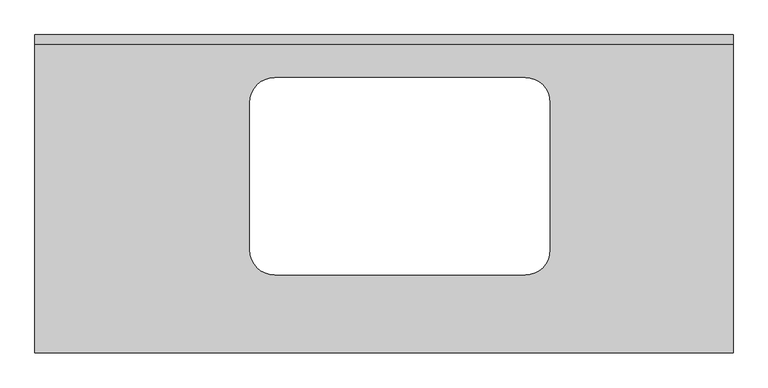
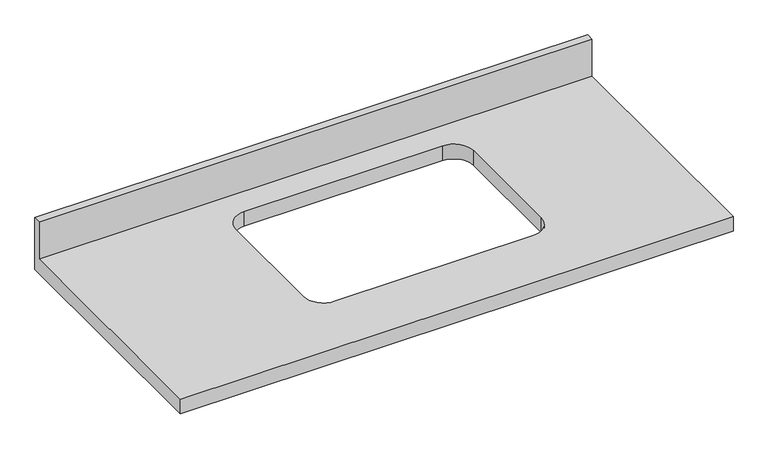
"""IFC4 building model written with IfcOpenShell, lengths in millimetres: furniture geometry, 洗面カウンタ 正方形 シンク開口 - 3D : 奥行き 650 mm."""

import ifcopenshell
import ifcopenshell.guid

model = None  # the IFC model being written
_history = None  # IfcOwnerHistory: only IFC2X3 demands one
_inside = {}  # id of a spatial element -> (the spatial element, [elements in it])
_under = {}  # id of a project, library or spatial element -> (it, [spatial elements below it])
_declared = {}  # id of a project -> (the project, [libraries it declares])
_typed = {}  # id of a type object -> (the type object, [elements of that type])
_made_of = {}  # id of a material, layer set ... -> (it, [elements and type objects made of it])


def new_model(schema):
    """Start an empty IFC model of exactly this schema.

    Asked for "IFC4X3", IfcOpenShell would pick the latest addendum, in which some entities
    have other attributes; the version numbers below select the first issue.
    IFC2X3 requires an IfcOwnerHistory on every rooted entity: one is made here for all.
    """
    global model, _history
    if schema == "IFC4X3":
        model = ifcopenshell.file(schema_version=(4, 3, 0, 0))
    else:
        model = ifcopenshell.file(schema=schema)
    _inside.clear()
    _under.clear()
    _declared.clear()
    _typed.clear()
    _made_of.clear()
    _history = None
    if model.schema == "IFC2X3":
        org = make("IfcOrganization", Name="unknown")
        user = make(
            "IfcPersonAndOrganization",
            ThePerson=make("IfcPerson", FamilyName="unknown"),
            TheOrganization=org,
        )
        app = make(
            "IfcApplication",
            ApplicationDeveloper=org,
            Version="unknown",
            ApplicationFullName="unknown",
            ApplicationIdentifier="unknown",
        )
        _history = make(
            "IfcOwnerHistory",
            OwningUser=user,
            OwningApplication=app,
            ChangeAction="ADDED",
            CreationDate=0,
        )
    return model


def make(cls, **values):
    """One entity of the class cls with the attributes given. An attribute that is None is left unset."""
    return model.create_entity(
        cls, **{name: value for name, value in values.items() if value is not None}
    )


def rooted(cls, **values):
    """An entity with a GlobalId (a new one), such as an element, a storey or a relation."""
    return make(cls, GlobalId=ifcopenshell.guid.new(), OwnerHistory=_history, **values)


def si_unit(unit_type, name, prefix=None):
    """IfcSIUnit, for example si_unit("LENGTHUNIT", "METRE", prefix="MILLI")."""
    return make("IfcSIUnit", UnitType=unit_type, Prefix=prefix, Name=name)


def assignment(units):
    """IfcUnitAssignment: the units of a project."""
    return None if units is None else make("IfcUnitAssignment", Units=units)


def point(xyz):
    """IfcCartesianPoint."""
    return None if xyz is None else make("IfcCartesianPoint", Coordinates=xyz)


def direction(xyz):
    """IfcDirection."""
    return None if xyz is None else make("IfcDirection", DirectionRatios=xyz)


def frame(location, z_axis=None, x_axis=None):
    """IfcAxis2Placement3D, a coordinate frame: its origin and axes. An axis left out is left unset."""
    return make(
        "IfcAxis2Placement3D",
        Location=point(location),
        Axis=direction(z_axis),
        RefDirection=direction(x_axis),
    )


def origin():
    """The frame at (0, 0, 0) with its axes left unset."""
    return frame((0.0, 0.0, 0.0))


def place(relative_to, where):
    """IfcLocalPlacement: puts the frame where relative to a parent placement (None: the world)."""
    return make(
        "IfcLocalPlacement", PlacementRelTo=relative_to, RelativePlacement=where
    )


def context(
    kind, dimensions, precision=None, world=None, true_north=None, identifier=None
):
    """IfcGeometricRepresentationContext, for example the 3D "Model" context."""
    return make(
        "IfcGeometricRepresentationContext",
        ContextIdentifier=identifier,
        ContextType=kind,
        CoordinateSpaceDimension=dimensions,
        Precision=precision,
        WorldCoordinateSystem=world,
        TrueNorth=true_north,
    )


def project(units=None, contexts=None):
    """IfcProject with its units and contexts."""
    return rooted(
        "IfcProject",
        Name="project",
        RepresentationContexts=contexts,
        UnitsInContext=assignment(units),
    )


def spatial(cls, under=None, at=None, **own):
    """A site, building, storey or space (cls), placed at a placement, below another one or the project."""
    s = rooted(cls, ObjectPlacement=at, **own)
    if under is not None:
        _under.setdefault(under.id(), (under, []))[1].append(s)
    return s


def polyline(points):
    """IfcPolyline through the points."""
    return make("IfcPolyline", Points=[point(p) for p in points])


def circle_curve(where, radius):
    """IfcCircle in the frame where."""
    return make("IfcCircle", Position=where, Radius=radius)


def shape(context_of_items, identifier, shape_type, items):
    """IfcShapeRepresentation: the items that make up one representation, for example the "Body"."""
    return make(
        "IfcShapeRepresentation",
        ContextOfItems=context_of_items,
        RepresentationIdentifier=identifier,
        RepresentationType=shape_type,
        Items=items,
    )


def source(mapping_origin, context_of_items, identifier, shape_type, items):
    """IfcRepresentationMap: a shape defined once, which mapped items show again and again."""
    return make(
        "IfcRepresentationMap",
        MappingOrigin=mapping_origin,
        MappedRepresentation=shape(context_of_items, identifier, shape_type, items),
    )


def transform(
    local_origin,
    x_axis=None,
    y_axis=None,
    z_axis=None,
    scale=None,
    scale2=None,
    scale3=None,
    uniform=True,
):
    """IfcCartesianTransformationOperator3D, or its non-uniform kind. x_axis, y_axis, z_axis: its Axis1, 2, 3."""
    if uniform:
        return make(
            "IfcCartesianTransformationOperator3D",
            Axis1=direction(x_axis),
            Axis2=direction(y_axis),
            LocalOrigin=point(local_origin),
            Scale=scale,
            Axis3=direction(z_axis),
        )
    return make(
        "IfcCartesianTransformationOperator3DnonUniform",
        Axis1=direction(x_axis),
        Axis2=direction(y_axis),
        LocalOrigin=point(local_origin),
        Scale=scale,
        Axis3=direction(z_axis),
        Scale2=scale2,
        Scale3=scale3,
    )


def mapped(mapping_source, mapping_target):
    """IfcMappedItem: shows the shape of a source again, moved by a transform."""
    return make(
        "IfcMappedItem", MappingSource=mapping_source, MappingTarget=mapping_target
    )


def made_of(thing, what):
    """Note that an element or type object is made of a material, layer set ...; save() writes the relation."""
    if what is not None:
        _made_of.setdefault(what.id(), (what, []))[1].append(thing)
    return thing


def element(
    cls,
    number,
    at=None,
    inside=None,
    cuts=None,
    type_object=None,
    material=None,
    context=None,
    identifier="Body",
    shape_type=None,
    held_by="IfcProductDefinitionShape",
    body=None,
    shapes=None,
    **own,
):
    """One element of the class cls, such as IfcWall. Its Tag is "e" and its number.

    at: its placement. inside: the storey or other place that contains it. cuts: it is an
    opening in that element (IfcRelVoidsElement). A single representation is given by context,
    identifier, shape_type and body (its items); several are given by shapes. held_by: the class
    of the entity that holds the representations. save() writes the other relations.
    """
    e = rooted(cls, Tag="e%d" % number, ObjectPlacement=at, **own)
    if body is not None:
        shapes = [shape(context, identifier, shape_type, body)]
    if shapes is not None:
        e.Representation = make(held_by, Representations=shapes)
    if inside is not None:
        _inside.setdefault(inside.id(), (inside, []))[1].append(e)
    if cuts is not None:
        rooted(
            "IfcRelVoidsElement", RelatingBuildingElement=cuts, RelatedOpeningElement=e
        )
    if type_object is not None:
        _typed.setdefault(type_object.id(), (type_object, []))[1].append(e)
    return made_of(e, material)


def aggregate(whole, parts):
    """IfcRelAggregates: a whole, such as a stair, and the parts it consists of."""
    return rooted("IfcRelAggregates", RelatingObject=whole, RelatedObjects=parts)


def save(model, path):
    """Write the relations noted so far, then the file.

    IfcRelAggregates (storeys below a building ...), IfcRelContainedInSpatialStructure (elements
    in a storey), IfcRelDefinesByType, IfcRelAssociatesMaterial and IfcRelDeclares: one each for
    every whole, place, type object, material and project.
    """
    for whole, parts in _under.values():
        aggregate(whole, parts)
    for where, things in _inside.values():
        rooted(
            "IfcRelContainedInSpatialStructure",
            RelatedElements=things,
            RelatingStructure=where,
        )
    for kind, things in _typed.values():
        rooted("IfcRelDefinesByType", RelatedObjects=things, RelatingType=kind)
    for what, things in _made_of.values():
        rooted("IfcRelAssociatesMaterial", RelatedObjects=things, RelatingMaterial=what)
    for by, libraries in _declared.values():
        rooted("IfcRelDeclares", RelatingContext=by, RelatedDefinitions=libraries)
    model.write(path)


def plane_surface(at):
    """IfcPlane: the flat surface through the origin of the frame at, square to its z axis."""
    return make("IfcPlane", Position=at)


def revolved_surface(curve, axis_point, axis_direction):
    """IfcSurfaceOfRevolution: the curve turned about the line through axis_point along axis_direction."""
    return make(
        "IfcSurfaceOfRevolution",
        SweptCurve=make("IfcArbitraryOpenProfileDef", ProfileType="CURVE", Curve=curve),
        AxisPosition=make("IfcAxis1Placement", Location=point(axis_point), Axis=direction(axis_direction)),
    )


def advanced_brep(points, edges, surfaces, faces):
    """IfcAdvancedBrep: a solid bounded by faces that lie on surfaces and meet in shared edges.

    An edge is (start, end): straight between two places in points (the first is 0);
    or (start, end, curve); or (start, end, curve, False) where it runs against its curve.
    A face is (place in surfaces, loops), or (place, loops, False) where it looks against
    its surface's normal. A loop lists edges by number (the first is 1), with a minus sign
    where the edge is run from its end to its start. The first loop is the outer one.
    """
    corners = [point(p) for p in points]
    vertices = [make("IfcVertexPoint", VertexGeometry=c) for c in corners]
    made = []
    for start, end, *more in edges:
        made.append(
            make(
                "IfcEdgeCurve",
                EdgeStart=vertices[start],
                EdgeEnd=vertices[end],
                EdgeGeometry=more[0] if more else make("IfcPolyline", Points=[corners[start], corners[end]]),
                SameSense=more[1] if len(more) > 1 else True,
            )
        )
    hull = []
    for where, loops, *sense in faces:
        bounds = []
        for j, loop in enumerate(loops):
            ring = [make("IfcOrientedEdge", EdgeElement=made[abs(k) - 1], Orientation=k > 0) for k in loop]
            bounds.append(
                make(
                    "IfcFaceOuterBound" if j == 0 else "IfcFaceBound",
                    Bound=make("IfcEdgeLoop", EdgeList=ring),
                    Orientation=True,
                )
            )
        hull.append(make("IfcAdvancedFace", Bounds=bounds, FaceSurface=surfaces[where], SameSense=sense[0] if sense else True))
    return make("IfcAdvancedBrep", Outer=make("IfcClosedShell", CfsFaces=hull))


def furniture_e3ce723a(model_context):
    return source(origin(), model_context, "Body", "AdvancedBrep", [
        advanced_brep(
        [(-1200.4622951, -650.0, 750.0), (224.5377049, -650.0, 750.0), (224.5377049, -19.05, 750.0), (-1200.4622951, -19.05, 750.0), (-710.8622951, -87.3, 750.0), (-200.0622951, -87.3, 750.0), (-149.2622951, -138.1, 750.0), (-149.2622951, -439.9, 750.0), (-200.0622951, -490.7, 750.0), (-710.8622951, -490.7, 750.0), (-761.6622951, -439.9, 750.0), (-761.6622951, -138.1, 750.0), (224.5377049, 0.0, 710.0), (224.5377049, -650.0, 710.0), (-1200.4622951, -650.0, 710.0), (-1200.4622951, 0.0, 710.0), (-200.0622951, -87.3, 710.0), (-710.8622951, -87.3, 710.0), (-761.6622951, -138.1, 710.0), (-761.6622951, -439.9, 710.0), (-710.8622951, -490.7, 710.0), (-200.0622951, -490.7, 710.0), (-149.2622951, -439.9, 710.0), (-149.2622951, -138.1, 710.0), (-1200.4622951, 0.0, 851.6), (224.5377049, 0.0, 851.6), (-1200.4622951, -19.05, 851.6), (224.5377049, -19.05, 851.6)],
        [
            (0, 1),
            (1, 2),
            (2, 3),
            (3, 0),
            (4, 5),
            (5, 6, circle_curve(frame((-200.0622951, -138.1, 750.0), z_axis=(0.0, 0.0, -1.0), x_axis=(1.0, 0.0, 0.0)), 50.8)),
            (6, 7),
            (7, 8, circle_curve(frame((-200.0622951, -439.9, 750.0), z_axis=(0.0, 0.0, -1.0), x_axis=(1.0, 0.0, 0.0)), 50.8)),
            (8, 9),
            (9, 10, circle_curve(frame((-710.8622951, -439.9, 750.0), z_axis=(0.0, 0.0, -1.0), x_axis=(1.0, 0.0, 0.0)), 50.8)),
            (10, 11),
            (11, 4, circle_curve(frame((-710.8622951, -138.1, 750.0), z_axis=(0.0, 0.0, -1.0), x_axis=(1.0, 0.0, 0.0)), 50.8)),
            (12, 13),
            (13, 14),
            (14, 15),
            (15, 12),
            (16, 17),
            (17, 18, circle_curve(frame((-710.8622951, -138.1, 710.0), z_axis=(0.0, 0.0, 1.0), x_axis=(1.0, 0.0, 0.0)), 50.8)),
            (18, 19),
            (19, 20, circle_curve(frame((-710.8622951, -439.9, 710.0), z_axis=(0.0, 0.0, 1.0), x_axis=(1.0, 0.0, 0.0)), 50.8)),
            (20, 21),
            (21, 22, circle_curve(frame((-200.0622951, -439.9, 710.0), z_axis=(0.0, 0.0, 1.0), x_axis=(1.0, 0.0, 0.0)), 50.8)),
            (22, 23),
            (23, 16, circle_curve(frame((-200.0622951, -138.1, 710.0), z_axis=(0.0, 0.0, 1.0), x_axis=(1.0, 0.0, 0.0)), 50.8)),
            (15, 24),
            (24, 25),
            (25, 12),
            (14, 0),
            (3, 26),
            (26, 24),
            (13, 1),
            (25, 27),
            (27, 2),
            (26, 27),
            (4, 17),
            (16, 5),
            (11, 18),
            (10, 19),
            (9, 20),
            (8, 21),
            (7, 22),
            (6, 23),
        ],
        [
            plane_surface(frame((-1200.4622951, 0.0, 750.0), z_axis=(0.0, 0.0, 1.0), x_axis=(-1.0, 0.0, 0.0))),
            plane_surface(frame((-1200.4622951, 0.0, 710.0), z_axis=(0.0, 0.0, -1.0), x_axis=(1.0, 0.0, 0.0))),
            plane_surface(frame((224.5377049, 0.0, 750.0), z_axis=(0.0, 1.0, 0.0), x_axis=(0.0, 0.0, -1.0))),
            plane_surface(frame((-1200.4622951, 0.0, 750.0), z_axis=(-1.0, 0.0, 0.0), x_axis=(0.0, 0.0, -1.0))),
            plane_surface(frame((-1200.4622951, -650.0, 750.0), z_axis=(0.0, -1.0, 0.0), x_axis=(0.0, 0.0, -1.0))),
            plane_surface(frame((224.5377049, -650.0, 750.0), z_axis=(1.0, 0.0, 0.0), x_axis=(0.0, 0.0, -1.0))),
            plane_surface(frame((-1200.4622951, 0.0, 851.6), z_axis=(0.0, 0.0, 1.0), x_axis=(0.0, -1.0, 0.0))),
            plane_surface(frame((-1200.4622951, -19.05, 851.6), z_axis=(0.0, -1.0, 0.0), x_axis=(0.0, 0.0, -1.0))),
            plane_surface(frame((-200.0622951, -87.3, 750.0), z_axis=(0.0, -1.0, 0.0), x_axis=(0.0, 0.0, -1.0))),
            revolved_surface(polyline([(-660.0622951, -138.1, 750.0), (-660.0622951, -138.1, 710.0)]), (-710.8622951, -138.1, 710.0), (0.0, 0.0, 1.0)),
            plane_surface(frame((-761.6622951, -138.1, 750.0), z_axis=(1.0, 0.0, 0.0), x_axis=(0.0, 0.0, -1.0))),
            revolved_surface(polyline([(-660.0622951, -439.9, 750.0), (-660.0622951, -439.9, 710.0)]), (-710.8622951, -439.9, 710.0), (0.0, 0.0, 1.0)),
            plane_surface(frame((-710.8622951, -490.7, 750.0), z_axis=(0.0, 1.0, 0.0), x_axis=(0.0, 0.0, -1.0))),
            revolved_surface(polyline([(-149.26229510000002, -439.9, 750.0), (-149.26229510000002, -439.9, 710.0)]), (-200.0622951, -439.9, 710.0), (0.0, 0.0, 1.0)),
            plane_surface(frame((-149.2622951, -439.9, 750.0), z_axis=(-1.0, 0.0, 0.0), x_axis=(0.0, 0.0, -1.0))),
            revolved_surface(polyline([(-149.26229510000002, -138.1, 750.0), (-149.26229510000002, -138.1, 710.0)]), (-200.0622951, -138.1, 710.0), (0.0, 0.0, 1.0)),
        ],
        [
            (0, [[1, 2, 3, 4], [5, 6, 7, 8, 9, 10, 11, 12]]),
            (1, [[13, 14, 15, 16], [17, 18, 19, 20, 21, 22, 23, 24]]),
            (2, [[-16, 25, 26, 27]]),
            (3, [[-15, 28, -4, 29, 30, -25]]),
            (4, [[-1, -28, -14, 31]]),
            (5, [[-13, -27, 32, 33, -2, -31]]),
            (6, [[-30, 34, -32, -26]]),
            (7, [[-34, -29, -3, -33]]),
            (8, [[35, -17, 36, -5]]),
            (9, [[-35, -12, 37, -18]]),
            (10, [[-37, -11, 38, -19]]),
            (11, [[-38, -10, 39, -20]]),
            (12, [[-39, -9, 40, -21]]),
            (13, [[-40, -8, 41, -22]]),
            (14, [[-41, -7, 42, -23]]),
            (15, [[-36, -24, -42, -6]]),
        ],
    ),
    ])


if __name__ == "__main__":
    model = new_model("IFC4")
    model_context = context("Model", 3, world=origin())
    ifc_project = project(units=[si_unit("LENGTHUNIT", "METRE", prefix="MILLI")], contexts=[model_context])
    site = spatial("IfcSite", under=ifc_project)
    building = spatial("IfcBuilding", under=site)
    placement = place(None, origin())
    furniture_shape = furniture_e3ce723a(model_context)
    element("IfcFurniture", 1, ObjectType="洗面カウンタ 正方形 シンク開口 - 3D : 奥行き 650 mm", at=placement, inside=building, context=model_context, shape_type="MappedRepresentation", body=[
        mapped(furniture_shape, transform((0.0, 0.0, 0.0), x_axis=(1.0, 0.0, 0.0), y_axis=(0.0, 1.0, 0.0), z_axis=(0.0, 0.0, 1.0))),
    ])
    save(model, "model.ifc")
